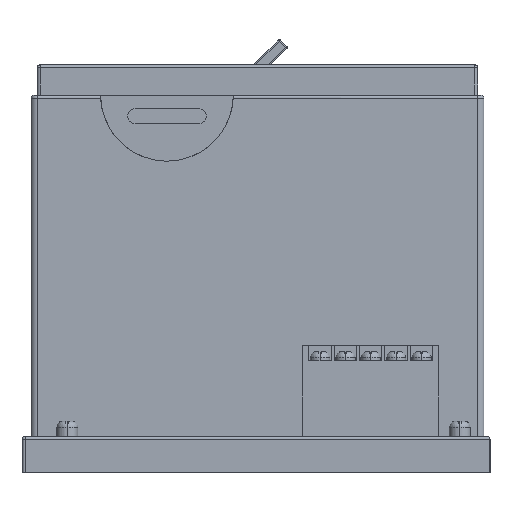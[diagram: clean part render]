
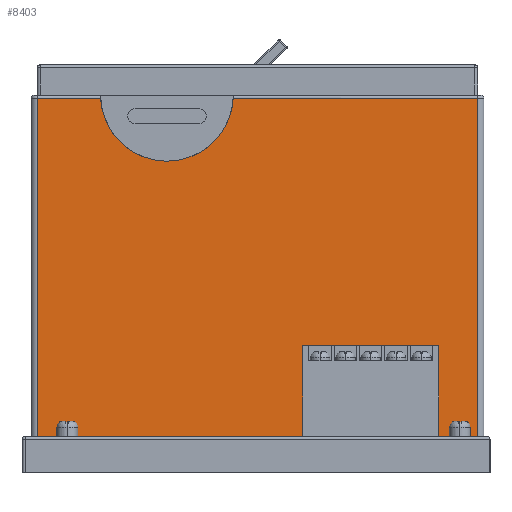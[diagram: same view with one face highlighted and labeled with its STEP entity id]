
A CAD part, left-side view. The second image highlights one B-rep face of the part: STEP entity #8403.
In plain terms, the highlighted planar face has unit normal (-1, 0, 0).
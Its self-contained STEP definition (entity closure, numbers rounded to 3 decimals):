
#46 = VERTEX_POINT ( 'NONE', #6636 ) ;
#200 = AXIS2_PLACEMENT_3D ( 'NONE', #7248, #1146, #4220 ) ;
#331 = VERTEX_POINT ( 'NONE', #4950 ) ;
#474 = VECTOR ( 'NONE', #10128, 1000. ) ;
#598 = EDGE_CURVE ( 'NONE', #4905, #9732, #12458, .T. ) ;
#630 = VECTOR ( 'NONE', #5660, 1000. ) ;
#631 = ORIENTED_EDGE ( 'NONE', *, *, #11418, .T. ) ;
#641 = CARTESIAN_POINT ( 'NONE',  ( 0., 0., 0. ) ) ;
#712 = CARTESIAN_POINT ( 'NONE',  ( 0., 15., 30. ) ) ;
#868 = LINE ( 'NONE', #11302, #8845 ) ;
#897 = AXIS2_PLACEMENT_3D ( 'NONE', #11523, #5465, #8633 ) ;
#982 = EDGE_CURVE ( 'NONE', #1090, #4905, #868, .T. ) ;
#1066 = DIRECTION ( 'NONE',  ( 0., 1., 0. ) ) ;
#1090 = VERTEX_POINT ( 'NONE', #12497 ) ;
#1146 = DIRECTION ( 'NONE',  ( 1., 0., 0. ) ) ;
#1213 = DIRECTION ( 'NONE',  ( 0., 0., 1. ) ) ;
#1293 = ORIENTED_EDGE ( 'NONE', *, *, #10601, .F. ) ;
#1368 = EDGE_CURVE ( 'NONE', #9603, #4750, #8830, .T. ) ;
#1592 = LINE ( 'NONE', #9333, #474 ) ;
#1673 = CARTESIAN_POINT ( 'NONE',  ( 0., 60., 30. ) ) ;
#1749 = DIRECTION ( 'NONE',  ( 0., -1., 0. ) ) ;
#1799 = VERTEX_POINT ( 'NONE', #712 ) ;
#2075 = ORIENTED_EDGE ( 'NONE', *, *, #598, .T. ) ;
#2298 = VECTOR ( 'NONE', #7619, 1000. ) ;
#2519 = ORIENTED_EDGE ( 'NONE', *, *, #1368, .T. ) ;
#2572 = CARTESIAN_POINT ( 'NONE',  ( 0., 148., 123. ) ) ;
#2723 = LINE ( 'NONE', #6007, #9271 ) ;
#2808 = EDGE_CURVE ( 'NONE', #4750, #46, #12881, .T. ) ;
#2861 = VERTEX_POINT ( 'NONE', #1673 ) ;
#2986 = EDGE_CURVE ( 'NONE', #1799, #331, #2723, .T. ) ;
#3056 = VECTOR ( 'NONE', #1749, 1000. ) ;
#3239 = EDGE_LOOP ( 'NONE', ( #2519, #8137, #1293, #12908, #2075, #5807, #11511, #631, #3340, #11008 ) ) ;
#3340 = ORIENTED_EDGE ( 'NONE', *, *, #2986, .T. ) ;
#3555 = VECTOR ( 'NONE', #1213, 1000. ) ;
#3735 = CARTESIAN_POINT ( 'NONE',  ( 0., 60., 30. ) ) ;
#4074 = LINE ( 'NONE', #3735, #4873 ) ;
#4220 = DIRECTION ( 'NONE',  ( 0., 0., -1. ) ) ;
#4426 = EDGE_CURVE ( 'NONE', #9732, #7271, #10179, .T. ) ;
#4525 = CARTESIAN_POINT ( 'NONE',  ( 0., 148., 0. ) ) ;
#4750 = VERTEX_POINT ( 'NONE', #9520 ) ;
#4873 = VECTOR ( 'NONE', #12681, 1000. ) ;
#4905 = VERTEX_POINT ( 'NONE', #7479 ) ;
#4950 = CARTESIAN_POINT ( 'NONE',  ( 0., 15., 0. ) ) ;
#5042 = CARTESIAN_POINT ( 'NONE',  ( 0., 2., 123. ) ) ;
#5439 = DIRECTION ( 'NONE',  ( 0., 1., 0. ) ) ;
#5465 = DIRECTION ( 'NONE',  ( -1., 0., 0. ) ) ;
#5480 = CARTESIAN_POINT ( 'NONE',  ( 0., 83., 112. ) ) ;
#5660 = DIRECTION ( 'NONE',  ( 0., -1., 0. ) ) ;
#5773 = CARTESIAN_POINT ( 'NONE',  ( 0., 60., 30. ) ) ;
#5807 = ORIENTED_EDGE ( 'NONE', *, *, #4426, .T. ) ;
#6007 = CARTESIAN_POINT ( 'NONE',  ( 0., 15., 30. ) ) ;
#6463 = FACE_OUTER_BOUND ( 'NONE', #3239, .T. ) ;
#6636 = CARTESIAN_POINT ( 'NONE',  ( 0., 83.028, 112. ) ) ;
#6914 = DIRECTION ( 'NONE',  ( 0., 0., -1. ) ) ;
#7248 = CARTESIAN_POINT ( 'NONE',  ( 0., 0., 123. ) ) ;
#7261 = CARTESIAN_POINT ( 'NONE',  ( 0., 2., 0. ) ) ;
#7271 = VERTEX_POINT ( 'NONE', #11214 ) ;
#7479 = CARTESIAN_POINT ( 'NONE',  ( 0., 148., 112. ) ) ;
#7619 = DIRECTION ( 'NONE',  ( 0., 0., -1. ) ) ;
#8137 = ORIENTED_EDGE ( 'NONE', *, *, #2808, .T. ) ;
#8403 = ADVANCED_FACE ( 'NONE', ( #6463 ), #12236, .F. ) ;
#8498 = CIRCLE ( 'NONE', #897, 22. ) ;
#8633 = DIRECTION ( 'NONE',  ( 0., 0., 1. ) ) ;
#8830 = LINE ( 'NONE', #5042, #3555 ) ;
#8845 = VECTOR ( 'NONE', #1066, 1000. ) ;
#9271 = VECTOR ( 'NONE', #6914, 1000. ) ;
#9333 = CARTESIAN_POINT ( 'NONE',  ( 0., 0., 0. ) ) ;
#9520 = CARTESIAN_POINT ( 'NONE',  ( 0., 2., 112. ) ) ;
#9603 = VERTEX_POINT ( 'NONE', #7261 ) ;
#9732 = VERTEX_POINT ( 'NONE', #4525 ) ;
#9775 = EDGE_CURVE ( 'NONE', #2861, #7271, #4074, .T. ) ;
#10128 = DIRECTION ( 'NONE',  ( 0., -1., 0. ) ) ;
#10179 = LINE ( 'NONE', #641, #630 ) ;
#10601 = EDGE_CURVE ( 'NONE', #1090, #46, #8498, .T. ) ;
#10817 = LINE ( 'NONE', #5773, #3056 ) ;
#11008 = ORIENTED_EDGE ( 'NONE', *, *, #13138, .T. ) ;
#11214 = CARTESIAN_POINT ( 'NONE',  ( 0., 60., 0. ) ) ;
#11289 = VECTOR ( 'NONE', #5439, 1000. ) ;
#11302 = CARTESIAN_POINT ( 'NONE',  ( 0., 148., 112. ) ) ;
#11418 = EDGE_CURVE ( 'NONE', #2861, #1799, #10817, .T. ) ;
#11511 = ORIENTED_EDGE ( 'NONE', *, *, #9775, .F. ) ;
#11523 = CARTESIAN_POINT ( 'NONE',  ( 0., 105., 113.1 ) ) ;
#12236 = PLANE ( 'NONE',  #200 ) ;
#12458 = LINE ( 'NONE', #2572, #2298 ) ;
#12497 = CARTESIAN_POINT ( 'NONE',  ( 0., 126.972, 112. ) ) ;
#12681 = DIRECTION ( 'NONE',  ( 0., 0., -1. ) ) ;
#12881 = LINE ( 'NONE', #5480, #11289 ) ;
#12908 = ORIENTED_EDGE ( 'NONE', *, *, #982, .T. ) ;
#13138 = EDGE_CURVE ( 'NONE', #331, #9603, #1592, .T. ) ;
